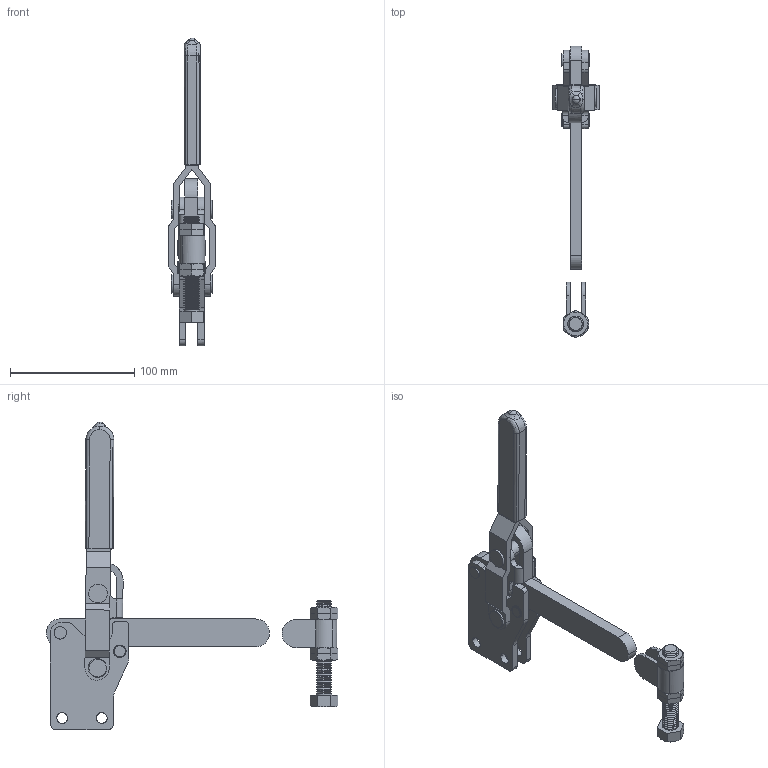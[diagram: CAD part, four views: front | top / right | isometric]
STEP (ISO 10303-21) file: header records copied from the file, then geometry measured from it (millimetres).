
FILE_DESCRIPTION((''),' ');
FILE_NAME('10250.stp',' ',('Rui Rosa'),('Fixsolda, Lda'),' ','ACIS 14.0',' ');
FILE_SCHEMA(('automotive_design'));
Length unit declared in the file: inch
Products named in the file (45): Bauteil_2458; Bauteil_2457; Bauteil_2456; Bauteil_2455; Bauteil_2454; Bauteil_2453; Bauteil_2452; Bauteil_2451; Bauteil_2450; Bauteil_2449; Bauteil_2448; Flächenseite_2076; Flächenseite_2078; Flächenseite_2080; Flächenseite_2082; Flächenseite_2084; Flächenseite_2086; Flächenseite_2088; Flächenseite_2090; Flächenseite_2092; Flächenseite_2094; Flächenseite_2096; Flächenseite_2098; Flächenseite_2100; Flächenseite_2102; Flächenseite_2104; Flächenseite_2106; Flächenseite_2108; Flächenseite_2110; Flächenseite_2112; Flächenseite_2114; Flächenseite_2116; Flächenseite_2118; Flächenseite_2120; Flächenseite_2122; Flächenseite_2124; Flächenseite_2126; Flächenseite_2128; Flächenseite_2130; Flächenseite_2132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
Bounding box: 37.5 x 234.25 x 247.34 mm (x, y, z)
Volume: 160641.2 mm3; surface area: 91134.8 mm2
Topology: 14 solids, 47 shells, 578 faces, 1788 edges, 1276 vertices
Faces by surface type: bspline 539, plane 28, revolution 11
Entity records: 54827 total; most frequent: CARTESIAN_POINT 24980, PRESENTATION_STYLE_ASSIGNMENT 3955, COLOUR_RGB 3955, ORIENTED_EDGE 3418, STYLED_ITEM 3377, CURVE_STYLE 2210, EDGE_CURVE 1786, VERTEX_POINT 1276
